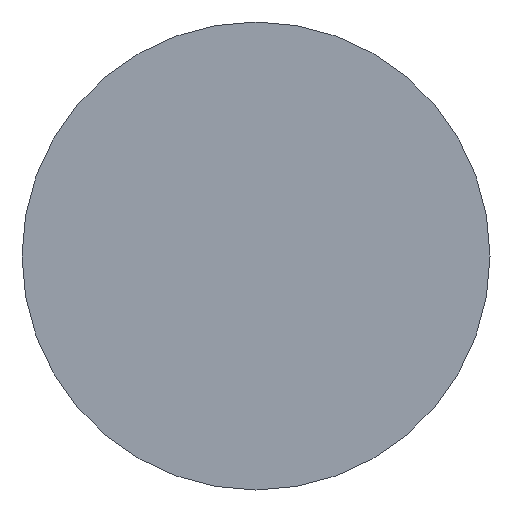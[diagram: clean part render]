
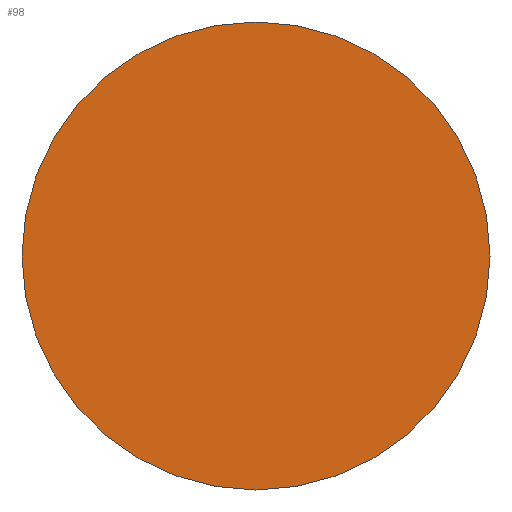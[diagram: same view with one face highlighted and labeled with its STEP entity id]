
A CAD part, left-side view. The second image highlights one B-rep face of the part: STEP entity #98.
In plain terms, the highlighted planar face has unit normal (-1, 0, 0).
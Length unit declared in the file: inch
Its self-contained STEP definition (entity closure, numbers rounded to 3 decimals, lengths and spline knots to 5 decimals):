
#32 = EDGE_LOOP ( 'NONE', ( #404, #402 ) ) ;
#35 = EDGE_CURVE ( 'NONE', #55, #66, #117, .T. ) ;
#55 = VERTEX_POINT ( 'NONE', #195 ) ;
#66 = VERTEX_POINT ( 'NONE', #214 ) ;
#83 = EDGE_CURVE ( 'NONE', #66, #55, #270, .T. ) ;
#98 = ADVANCED_FACE ( 'PLANAR_2', ( #277 ), #331, .F. ) ;
#117 = CIRCLE ( 'NONE', #157, 0.125 ) ;
#154 = DIRECTION ( 'NONE',  ( 0., -1., 0. ) ) ;
#155 = DIRECTION ( 'NONE',  ( -1., 0., 0. ) ) ;
#156 = CARTESIAN_POINT ( 'NONE',  ( 0., 0., 0. ) ) ;
#157 = AXIS2_PLACEMENT_3D ( 'NONE', #156, #155, #154 ) ;
#195 = CARTESIAN_POINT ( 'NONE',  ( 0., 0.125, 0. ) ) ;
#214 = CARTESIAN_POINT ( 'NONE',  ( 0., -0.125, 0. ) ) ;
#264 = DIRECTION ( 'NONE',  ( 0., -1., 0. ) ) ;
#265 = DIRECTION ( 'NONE',  ( -1., 0., 0. ) ) ;
#266 = CARTESIAN_POINT ( 'NONE',  ( 0., 0., 0. ) ) ;
#267 = AXIS2_PLACEMENT_3D ( 'NONE', #266, #265, #264 ) ;
#270 = CIRCLE ( 'NONE', #267, 0.125 ) ;
#277 = FACE_OUTER_BOUND ( 'NONE', #32, .T. ) ;
#327 = DIRECTION ( 'NONE',  ( 0., 1., 0. ) ) ;
#328 = DIRECTION ( 'NONE',  ( 1., 0., 0. ) ) ;
#329 = CARTESIAN_POINT ( 'NONE',  ( 0., 0., 0. ) ) ;
#330 = AXIS2_PLACEMENT_3D ( 'NONE', #329, #328, #327 ) ;
#331 = PLANE ( 'NONE',  #330 ) ;
#402 = ORIENTED_EDGE ( 'NONE', *, *, #35, .T. ) ;
#404 = ORIENTED_EDGE ( 'NONE', *, *, #83, .T. ) ;
